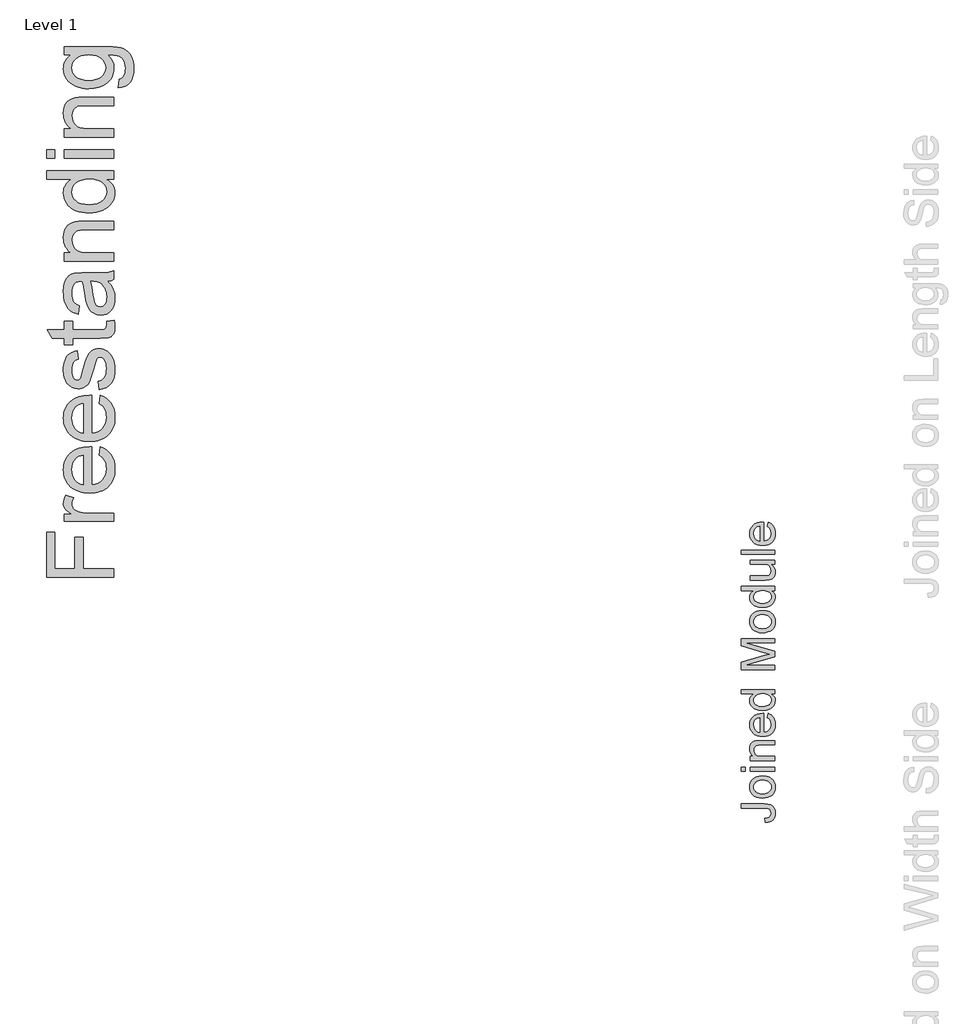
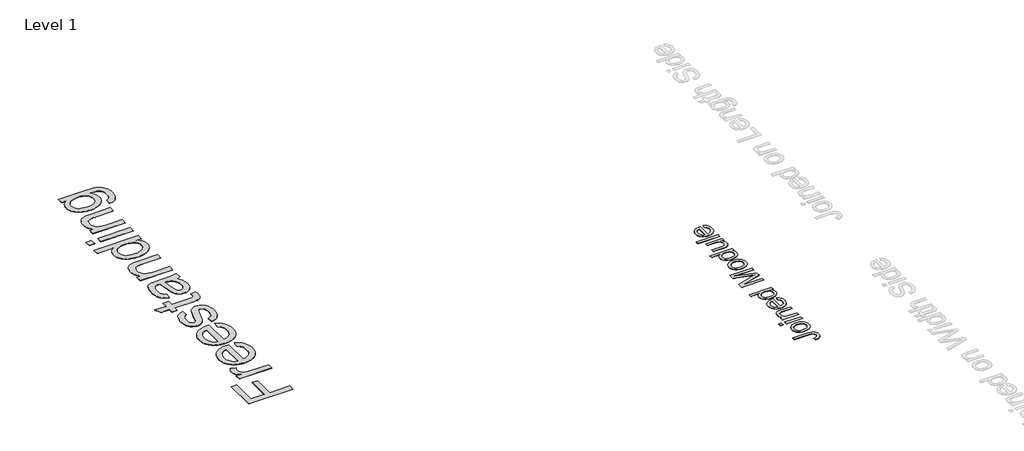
# One storey, part 41 of 69: 2 proxies.
"""IFC4 building model written with IfcOpenShell, lengths in millimetres."""

from ifc_helpers import new_model, si_unit, origin, origin_with_axes, place, context, project, spatial, polyline, outline, extrude, element, save

model = new_model("IFC4")

# Units and contexts
model_context = context("Model", 3, world=origin())
ifc_project = project(units=[si_unit("LENGTHUNIT", "METRE", prefix="MILLI")], contexts=[model_context])

# Site, building, storey
site = spatial("IfcSite", under=ifc_project)
building = spatial("IfcBuilding", under=site)
storey = spatial("IfcBuildingStorey", under=building, Name="Level 1", Elevation=0.0)

# Proxies
placement = place(None, origin())
element("IfcBuildingElementProxy", 1, Name="1000mm Arial", ObjectType="1000mm Arial", at=placement, inside=storey, context=model_context, shape_type="SweptSolid", body=[
    extrude(outline(polyline([(-28268.5943946, 19516.4958879), (-29273.1574961, 19516.4958879), (-29273.1574961, 20191.4367217), (-29147.5871085, 20191.4367217), (-29147.5871085, 19642.0662755), (-28849.3574377, 19642.0662755), (-28849.3574377, 20112.9552294), (-28723.78705, 20112.9552294), (-28723.78705, 19642.0662755), (-28268.5943946, 19642.0662755), (-28268.5943946, 19516.4958879)])), origin_with_axes(), (0.0, 0.0, 1.0), 5.0),
    extrude(outline(polyline([(-28268.5943946, 20348.3997063), (-29006.3204223, 20348.3997063), (-29006.3204223, 20458.2737955), (-28897.1820971, 20458.2737955), (-28960.4578002, 20498.8634423), (-28982.346779, 20517.9626492), (-28997.7365091, 20536.2647785), (-29015.9466678, 20573.788742), (-29022.0167208, 20614.7462708), (-29019.594831, 20645.8936131), (-29012.3291616, 20677.28621), (-29000.2197126, 20708.9240616), (-28983.2664839, 20740.8071678), (-28870.6945934, 20698.8686204), (-28890.0083982, 20654.7227809), (-28894.8368494, 20632.6498612), (-28896.4463331, 20610.5769415), (-28894.898163, 20591.3321146), (-28890.2536528, 20573.0836348), (-28882.5128025, 20555.8315021), (-28871.6756121, 20539.5757164), (-28858.0946351, 20524.9294145), (-28842.1224251, 20512.505733), (-28803.0043063, 20494.326231), (-28732.8614726, 20479.0591282), (-28656.3420176, 20473.970094), (-28268.5943946, 20473.970094), (-28268.5943946, 20348.3997063)])), origin_with_axes(), (0.0, 0.0, 1.0), 5.0),
    extrude(outline(polyline([(-28488.3425731, 21335.7949813), (-28472.6462746, 21458.9128224), (-28423.3347589, 21440.0358775), (-28379.8786982, 21414.5523851), (-28342.2780926, 21382.4623453), (-28310.5329421, 21343.7657579), (-28285.317697, 21298.8611619), (-28267.3068077, 21248.147096), (-28256.5002741, 21191.6235603), (-28252.8980962, 21129.2905547), (-28254.4520144, 21089.2718914), (-28259.1137691, 21051.3762138), (-28266.8833602, 21015.6035219), (-28277.7607877, 20981.9538156), (-28291.7460517, 20950.4270951), (-28308.8391521, 20921.0233602), (-28329.0400889, 20893.742611), (-28352.3488622, 20868.5848475), (-28378.4627357, 20845.9945937), (-28407.0789732, 20826.4163738), (-28438.1975747, 20809.8501877), (-28471.8185401, 20796.2960354), (-28507.9418696, 20785.753917), (-28546.567563, 20778.2238324), (-28587.6956205, 20773.7057816), (-28631.3260419, 20772.1997647), (-28676.4414037, 20773.7211101), (-28718.9585988, 20778.2851461), (-28758.8776274, 20785.8918727), (-28796.1984894, 20796.5412901), (-28830.9211848, 20810.2333981), (-28863.0457136, 20826.9681968), (-28892.5720758, 20846.7456861), (-28919.5002714, 20869.5658661), (-28943.5275643, 20894.811768), (-28964.351218, 20921.8664231), (-28981.9712328, 20950.7298313), (-28996.3876084, 20981.4019927), (-29007.6003451, 21013.8829071), (-29015.6094427, 21048.1725748), (-29020.4149012, 21084.2709956), (-29022.0167208, 21122.1781695), (-29020.4187334, 21158.8456577), (-29015.6247711, 21193.8001954), (-29007.634834, 21227.0417826), (-28996.4489221, 21258.5704192), (-28982.0670354, 21288.3861053), (-28964.4891738, 21316.4888408), (-28943.7153374, 21342.8786258), (-28919.7455261, 21367.5554603), (-28892.8786441, 21389.887047), (-28863.4135956, 21409.2410888), (-28831.3503805, 21425.6175858), (-28796.6889987, 21439.0165378), (-28759.4294504, 21449.437945), (-28719.5717355, 21456.8818072), (-28632.0618059, 21462.836897), (-28598.2166623, 21462.101133), (-28598.2166623, 20897.7701524), (-28548.1080689, 20905.043486), (-28504.2228126, 20919.505847), (-28466.5608933, 20941.1572352), (-28435.1223111, 20969.9976508), (-28410.3362617, 21004.4329384), (-28392.6319407, 21042.8689427), (-28382.0093481, 21085.3056637), (-28378.4684839, 21131.7431013), (-28380.1086244, 21166.4772931), (-28385.0290461, 21198.5749971), (-28393.2297489, 21228.0362136), (-28404.7107329, 21254.8609424), (-28419.7785662, 21279.0491836), (-28438.7398174, 21300.6009371), (-28461.5944864, 21319.5162031), (-28488.3425731, 21335.7949813)]), holes=[polyline([(-28723.78705, 20897.7701524), (-28723.78705, 21337.2665093), (-28759.3183194, 21330.813246), (-28790.1284365, 21320.2826239), (-28816.2174013, 21305.674643), (-28837.5852139, 21286.9893033), (-28863.3369535, 21252.7456209), (-28881.7310533, 21213.7807863), (-28892.7675131, 21170.0947993), (-28896.4463331, 21121.6876601), (-28893.5109413, 21077.5341565), (-28884.7047661, 21037.0441444), (-28870.0278073, 21000.2176239), (-28849.480065, 20967.0545948), (-28824.0119011, 20939.2258547), (-28794.5736773, 20918.402201), (-28761.1653936, 20904.5836335), (-28723.78705, 20897.7701524)])]), origin_with_axes(), (0.0, 0.0, 1.0), 5.0),
    extrude(outline(polyline([(-28488.3425731, 22104.9136059), (-28472.6462746, 22228.031447), (-28423.3347589, 22209.1545021), (-28379.8786982, 22183.6710097), (-28342.2780926, 22151.5809699), (-28310.5329421, 22112.8843825), (-28285.317697, 22067.9797864), (-28267.3068077, 22017.2657206), (-28256.5002741, 21960.7421849), (-28252.8980962, 21898.4091793), (-28254.4520144, 21858.390516), (-28259.1137691, 21820.4948384), (-28266.8833602, 21784.7221465), (-28277.7607877, 21751.0724402), (-28291.7460517, 21719.5457197), (-28308.8391521, 21690.1419848), (-28329.0400889, 21662.8612356), (-28352.3488622, 21637.703472), (-28378.4627357, 21615.1132183), (-28407.0789732, 21595.5349984), (-28438.1975747, 21578.9688123), (-28471.8185401, 21565.41466), (-28507.9418696, 21554.8725416), (-28546.567563, 21547.342457), (-28587.6956205, 21542.8244062), (-28631.3260419, 21541.3183893), (-28676.4414037, 21542.8397346), (-28718.9585988, 21547.4037706), (-28758.8776274, 21555.0104973), (-28796.1984894, 21565.6599147), (-28830.9211848, 21579.3520227), (-28863.0457136, 21596.0868213), (-28892.5720758, 21615.8643107), (-28919.5002714, 21638.6844907), (-28943.5275643, 21663.9303926), (-28964.351218, 21690.9850477), (-28981.9712328, 21719.8484559), (-28996.3876084, 21750.5206172), (-29007.6003451, 21783.0015317), (-29015.6094427, 21817.2911994), (-29020.4149012, 21853.3896201), (-29022.0167208, 21891.2967941), (-29020.4187334, 21927.9642823), (-29015.6247711, 21962.91882), (-29007.634834, 21996.1604072), (-28996.4489221, 22027.6890438), (-28982.0670354, 22057.5047298), (-28964.4891738, 22085.6074654), (-28943.7153374, 22111.9972504), (-28919.7455261, 22136.6740848), (-28892.8786441, 22159.0056716), (-28863.4135956, 22178.3597134), (-28831.3503805, 22194.7362104), (-28796.6889987, 22208.1351624), (-28759.4294504, 22218.5565695), (-28719.5717355, 22226.0004318), (-28632.0618059, 22231.9555216), (-28598.2166623, 22231.2197576), (-28598.2166623, 21666.888777), (-28548.1080689, 21674.1621106), (-28504.2228126, 21688.6244715), (-28466.5608933, 21710.2758598), (-28435.1223111, 21739.1162754), (-28410.3362617, 21773.551563), (-28392.6319407, 21811.9875673), (-28382.0093481, 21854.4242882), (-28378.4684839, 21900.8617259), (-28380.1086244, 21935.5959176), (-28385.0290461, 21967.6936217), (-28393.2297489, 21997.1548382), (-28404.7107329, 22023.979567), (-28419.7785662, 22048.1678082), (-28438.7398174, 22069.7195617), (-28461.5944864, 22088.6348276), (-28488.3425731, 22104.9136059)]), holes=[polyline([(-28723.78705, 21666.888777), (-28723.78705, 22106.3851339), (-28759.3183194, 22099.9318706), (-28790.1284365, 22089.4012485), (-28816.2174013, 22074.7932676), (-28837.5852139, 22056.1079279), (-28863.3369535, 22021.8642455), (-28881.7310533, 21982.8994109), (-28892.7675131, 21939.2134239), (-28896.4463331, 21890.8062847), (-28893.5109413, 21846.6527811), (-28884.7047661, 21806.162769), (-28870.0278073, 21769.3362484), (-28849.480065, 21736.1732194), (-28824.0119011, 21708.3444793), (-28794.5736773, 21687.5208256), (-28761.1653936, 21673.7022581), (-28723.78705, 21666.888777)])]), origin_with_axes(), (0.0, 0.0, 1.0), 5.0),
    extrude(outline(polyline([(-28488.3425731, 22310.4370139), (-28504.0388716, 22436.0074016), (-28475.4053896, 22443.5949677), (-28450.3281003, 22455.8117157), (-28428.8070035, 22472.6576454), (-28410.8420994, 22494.1327568), (-28396.6786426, 22520.2983637), (-28386.5618878, 22551.2157797), (-28380.4918348, 22586.8850049), (-28378.4684839, 22627.3060391), (-28380.3232223, 22667.681088), (-28385.8874374, 22702.4765934), (-28395.1611294, 22731.6925552), (-28408.1442982, 22755.3289734), (-28423.6259988, 22773.569789), (-28440.3952864, 22786.598943), (-28458.452161, 22794.4164354), (-28477.7966226, 22797.0222662), (-28494.7498512, 22794.401107), (-28509.8023562, 22786.5376293), (-28522.9541375, 22773.4318332), (-28534.2051952, 22755.0837187), (-28550.1467483, 22708.056137), (-28570.012376, 22625.8345111), (-28603.1524124, 22511.2392696), (-28631.4486692, 22436.7431656), (-28645.6351187, 22411.1677027), (-28662.3201, 22388.8878494), (-28681.5036132, 22369.9036056), (-28703.1856583, 22354.2149713), (-28726.7147776, 22341.9292455), (-28751.4395133, 22333.1537271), (-28777.3598656, 22327.888416), (-28804.4758343, 22326.1333124), (-28853.1282281, 22331.7741696), (-28898.0404884, 22348.6967414), (-28937.4345187, 22375.368186), (-28969.5322228, 22410.2556619), (-28989.7350757, 22444.92854), (-29006.6883043, 22490.0860549), (-29018.1846167, 22542.2946414), (-29022.0167208, 22598.1207341), (-29020.4762149, 22640.3198647), (-29015.8546973, 22679.8518507), (-29008.1521681, 22716.7166923), (-28997.3686271, 22750.9143895), (-28983.9562627, 22781.6325361), (-28968.3672631, 22808.058726), (-28950.6016285, 22830.1929594), (-28930.6593586, 22848.0352362), (-28907.8430107, 22862.5052613), (-28881.4551418, 22874.5227398), (-28851.4957518, 22884.0876717), (-28817.9648408, 22891.2000569), (-28802.2685423, 22765.6296693), (-28823.2454802, 22759.6439226), (-28841.7852, 22749.7800866), (-28857.8877015, 22736.0381613), (-28871.5529847, 22718.4181465), (-28882.4438246, 22696.8434004), (-28890.222996, 22671.2372807), (-28894.8904988, 22641.5997874), (-28896.4463331, 22607.9309207), (-28894.9594767, 22568.8741155), (-28890.4989075, 22535.8260496), (-28883.0646255, 22508.786723), (-28872.6566307, 22487.7561356), (-28860.2712702, 22471.983195), (-28846.9048911, 22460.7168089), (-28832.5574933, 22453.9569773), (-28817.2290768, 22451.7037), (-28797.915272, 22455.4438337), (-28780.6861319, 22466.6642345), (-28765.2964018, 22485.8554119), (-28752.972355, 22513.5078752), (-28726.2395966, 22621.6651818), (-28693.4367854, 22732.6122602), (-28667.1332228, 22805.9740614), (-28654.3033382, 22831.7871147), (-28638.8676228, 22854.6571121), (-28620.8260766, 22874.5840535), (-28600.1786996, 22891.5679389), (-28576.894835, 22905.1412517), (-28550.9438259, 22914.8364751), (-28522.3256724, 22920.6536092), (-28491.0403744, 22922.5926539), (-28459.6171206, 22920.316384), (-28429.1135719, 22913.4875745), (-28399.5297281, 22902.1062253), (-28370.8655893, 22886.1723363), (-28344.2631225, 22865.9464908), (-28320.8642948, 22841.6892718), (-28300.6691061, 22813.4006792), (-28283.6775564, 22781.0807131), (-28270.2115426, 22745.6107574), (-28260.5929613, 22707.872196), (-28254.8218125, 22667.865029), (-28252.8980962, 22625.5892564), (-28256.607573, 22558.0062682), (-28267.7360033, 22498.9765364), (-28286.2833872, 22448.500061), (-28312.2497247, 22406.576842), (-28345.5123885, 22372.3331596), (-28385.9487511, 22344.8952941), (-28433.5588127, 22324.2632455), (-28488.3425731, 22310.4370139)])), origin_with_axes(), (0.0, 0.0, 1.0), 5.0),
    extrude(outline(polyline([(-28373.3181359, 23330.6964139), (-28264.9155747, 23346.3927123), (-28255.9024658, 23296.6673293), (-28252.8980962, 23252.4601762), (-28258.1097578, 23192.1888427), (-28264.6243348, 23167.8013321), (-28273.7447426, 23147.2459256), (-28297.8410133, 23115.4854467), (-28312.3263668, 23103.7438797), (-28328.4365325, 23094.7614276), (-28350.0342713, 23088.1088949), (-28380.9823442, 23083.3570858), (-28470.929492, 23079.5556385), (-28880.7500346, 23079.5556385), (-28880.7500346, 22985.3778477), (-29006.3204223, 22985.3778477), (-29006.3204223, 23079.5556385), (-29185.6015813, 23079.5556385), (-29259.423235, 23205.1260262), (-29006.3204223, 23205.1260262), (-29006.3204223, 23330.6964139), (-28880.7500346, 23330.6964139), (-28880.7500346, 23205.1260262), (-28474.6083119, 23205.1260262), (-28433.2829012, 23206.7814951), (-28409.8610808, 23211.7479021), (-28396.8932405, 23220.4237858), (-28386.9297698, 23233.2076851), (-28380.5838053, 23251.3258734), (-28378.4684839, 23276.0046239), (-28373.3181359, 23330.6964139)])), origin_with_axes(), (0.0, 0.0, 1.0), 5.0),
    extrude(outline(polyline([(-28362.7721854, 23927.1557554), (-28334.8284822, 23897.3803064), (-28311.3300198, 23867.1603333), (-28292.2767981, 23836.4958362), (-28277.6688172, 23805.386815), (-28266.8316268, 23773.4807161), (-28259.0907764, 23740.424986), (-28254.4462662, 23706.2196246), (-28252.8980962, 23670.8646321), (-28256.6229014, 23614.954233), (-28267.797317, 23565.9262929), (-28286.421343, 23523.7808119), (-28312.4949794, 23488.5177898), (-28344.3627572, 23460.6737213), (-28380.3692075, 23440.7851009), (-28420.5143302, 23428.8519287), (-28464.7981254, 23424.8742046), (-28516.8534277, 23430.8829439), (-28541.0876542, 23438.3938679), (-28564.1262641, 23448.9091616), (-28604.5932836, 23476.7149091), (-28636.2311352, 23512.0622375), (-28660.1434648, 23553.6022461), (-28677.4339186, 23599.9860343), (-28687.0601642, 23645.1742061), (-28696.3185277, 23708.6338502), (-28716.1841554, 23837.0246665), (-28727.4045563, 23886.5967654), (-28739.4833485, 23926.4199914), (-28767.4423801, 23927.1557554), (-28797.8846152, 23924.9944486), (-28823.4830707, 23918.5105285), (-28844.2377466, 23907.7039949), (-28860.1486429, 23892.5748478), (-28876.0288823, 23866.4245693), (-28887.3719105, 23834.5721199), (-28894.1777274, 23797.0174996), (-28896.4463331, 23753.7607083), (-28894.9364841, 23713.5389435), (-28890.406937, 23678.958036), (-28882.8576919, 23650.0179857), (-28872.2887487, 23626.7187926), (-28857.872373, 23607.5736005), (-28838.7808303, 23591.0955528), (-28815.0141206, 23577.2846495), (-28786.5722439, 23566.1408908), (-28802.2685423, 23440.5705031), (-28838.4436052, 23450.1277707), (-28870.9398481, 23462.3675113), (-28899.757271, 23477.2897247), (-28924.895874, 23494.894411), (-28946.8614948, 23515.9403268), (-28966.1599712, 23541.1862288), (-28982.791303, 23570.6321168), (-28996.7554904, 23604.2779909), (-29007.8072787, 23641.4417367), (-29015.7014132, 23681.4412394), (-29020.4378939, 23724.2764992), (-29022.0167208, 23769.9475161), (-29016.4371772, 23854.8362865), (-29009.4627477, 23890.6817884), (-28999.6985464, 23922.1280348), (-28974.5292866, 23972.8650933), (-28959.8063425, 23992.4164885), (-28943.6578558, 24008.0897943), (-28905.4900988, 24031.450301), (-28858.4318602, 24046.5947765), (-28815.0217848, 24051.1933014), (-28748.557771, 24052.7261431), (-28592.3305504, 24052.7261431), (-28456.244869, 24054.3202984), (-28374.1765273, 24059.1027643), (-28320.2511581, 24068.5450688), (-28268.5943946, 24084.11874), (-28268.5943946, 23958.5483523), (-28312.2497247, 23938.4374699), (-28362.7721854, 23927.1557554)]), holes=[polyline([(-28613.9129608, 23927.1557554), (-28593.0050007, 23842.7881511), (-28575.4079786, 23724.5754034), (-28565.7817331, 23659.4296334), (-28555.0518416, 23616.5407241), (-28541.1336394, 23588.4284083), (-28521.942462, 23567.6124187), (-28498.9498373, 23554.7365489), (-28473.6272933, 23550.4445923), (-28454.1142191, 23552.7821758), (-28436.2872708, 23559.7949263), (-28420.1464482, 23571.4828439), (-28405.6917515, 23587.8459285), (-28393.7815719, 23608.7308959), (-28385.2743008, 23633.984462), (-28380.1699381, 23663.6066269), (-28378.4684839, 23697.5973904), (-28380.3462149, 23732.3009253), (-28385.9794079, 23765.0424228), (-28395.368063, 23795.8218831), (-28408.5121801, 23824.639306), (-28424.3234417, 23850.6363004), (-28441.7135302, 23872.9544747), (-28460.6824456, 23891.5938292), (-28481.2301879, 23906.5543636), (-28499.6242876, 23915.2455758), (-28521.942462, 23921.4535844), (-28578.3510346, 23926.4199914), (-28613.9129608, 23927.1557554)])]), origin_with_axes(), (0.0, 0.0, 1.0), 5.0),
    extrude(outline(polyline([(-28268.5943946, 24225.3854261), (-29006.3204223, 24225.3854261), (-29006.3204223, 24350.9558138), (-28903.3134637, 24350.9558138), (-28931.1345395, 24371.6721687), (-28955.2461386, 24394.5804871), (-28975.648261, 24419.680769), (-28992.3409065, 24446.9730145), (-29005.3240752, 24476.4572236), (-29014.5977672, 24508.1333962), (-29020.1619824, 24542.0015324), (-29022.0167208, 24578.0616322), (-29016.0386383, 24639.9577779), (-29008.5660353, 24668.9514776), (-28998.1043911, 24696.6422619), (-28985.2131928, 24721.9801344), (-28970.4519278, 24743.9150983), (-28953.8205959, 24762.4471538), (-28935.3191972, 24777.5763009), (-28892.79817, 24800.4156414), (-28842.9808164, 24815.2228917), (-28795.3400981, 24820.1892987), (-28721.579758, 24821.8447676), (-28268.5943946, 24821.8447676), (-28268.5943946, 24696.2743799), (-28704.6571863, 24696.2743799), (-28769.5883584, 24692.6568737), (-28815.7575488, 24681.8043548), (-28833.2242794, 24673.1821205), (-28848.8362715, 24661.7854429), (-28862.5935253, 24647.6143219), (-28874.4960407, 24630.6687575), (-28890.95876, 24590.7842178), (-28896.4463331, 24544.4617433), (-28893.3653214, 24506.3323073), (-28884.1222862, 24470.9160011), (-28868.7172277, 24438.2128245), (-28847.1501457, 24408.2227777), (-28816.9684937, 24383.168481), (-28775.719725, 24365.2725548), (-28723.4038396, 24354.5349991), (-28660.0208375, 24350.9558138), (-28268.5943946, 24350.9558138), (-28268.5943946, 24225.3854261)])), origin_with_axes(), (0.0, 0.0, 1.0), 5.0),
    extrude(outline(polyline([(-28268.5943946, 25449.6967061), (-28387.0523971, 25449.6967061), (-28355.6099828, 25431.9042467), (-28328.3598904, 25412.1267573), (-28305.30212, 25390.364238), (-28286.4366714, 25366.6166888), (-28271.7635448, 25340.8841097), (-28261.28274, 25313.1665006), (-28254.9942571, 25283.4638616), (-28252.8980962, 25251.7761927), (-28255.9331226, 25210.3281545), (-28265.038202, 25170.5968991), (-28280.2133343, 25132.5824262), (-28301.4585195, 25096.284736), (-28328.1376284, 25062.8381313), (-28359.6145316, 25033.3769149), (-28395.8892292, 25007.9010867), (-28436.9617211, 24986.4106468), (-28482.0502581, 24969.3501193), (-28530.373091, 24957.1640282), (-28581.9302198, 24949.8523735), (-28636.7216445, 24947.4151553), (-28690.5090579, 24949.6607683), (-28741.7519541, 24956.3976074), (-28790.4503332, 24967.6256724), (-28836.6041952, 24983.3449635), (-28878.8646394, 25003.5478164), (-28915.8827652, 25028.2265669), (-28947.6585725, 25057.381215), (-28974.1920614, 25091.0117608), (-28995.1153499, 25127.9302518), (-29010.0605559, 25166.9487359), (-29019.0276796, 25208.0672131), (-29022.0167208, 25251.2856833), (-29019.8784067, 25282.8928781), (-29013.4634644, 25312.7219765), (-29002.7718939, 25340.7729787), (-28987.8036952, 25367.0458845), (-28969.4172597, 25391.2494541), (-28948.4709786, 25413.0924475), (-28924.9648519, 25432.5748649), (-28898.8988797, 25449.6967061), (-29273.1574961, 25449.6967061), (-29273.1574961, 25575.2670938), (-28268.5943946, 25575.2670938), (-28268.5943946, 25449.6967061)]), holes=[polyline([(-28637.2121538, 25072.985543), (-28576.3200194, 25076.5264072), (-28523.6285878, 25087.1489998), (-28479.137859, 25104.8533208), (-28442.847833, 25129.6393703), (-28414.6818678, 25159.2385425), (-28394.5633212, 25191.3822318), (-28382.4921932, 25226.0704383), (-28378.4684839, 25263.3031618), (-28382.3082522, 25300.7121622), (-28393.8275572, 25335.1934351), (-28413.0263988, 25366.7469804), (-28439.9047771, 25395.3727981), (-28474.6772898, 25419.1395078), (-28517.5585349, 25436.1157291), (-28568.5485123, 25446.3014618), (-28627.6472219, 25449.6967061), (-28692.4404383, 25446.2401482), (-28748.005948, 25435.8704744), (-28794.343751, 25418.5876849), (-28831.4538473, 25394.3917795), (-28859.8880598, 25365.1374966), (-28880.1982116, 25332.6795748), (-28892.3843027, 25297.0180139), (-28896.4463331, 25258.1528139), (-28892.5452511, 25220.1843263), (-28880.8420051, 25185.4961199), (-28861.3365952, 25154.0881945), (-28834.0290212, 25125.9605503), (-28798.3214751, 25102.7839846), (-28753.6161485, 25086.2292948), (-28699.9130414, 25076.296481), (-28637.2121538, 25072.985543)])]), origin_with_axes(), (0.0, 0.0, 1.0), 5.0),
    extrude(outline(polyline([(-28268.5943946, 25763.6226753), (-29006.3204223, 25763.6226753), (-29006.3204223, 25889.193063), (-28268.5943946, 25889.193063), (-28268.5943946, 25763.6226753)])), origin_with_axes(), (0.0, 0.0, 1.0), 5.0),
    extrude(outline(polyline([(-29147.5871085, 25763.6226753), (-29273.1574961, 25763.6226753), (-29273.1574961, 25889.193063), (-29147.5871085, 25889.193063), (-29147.5871085, 25763.6226753)])), origin_with_axes(), (0.0, 0.0, 1.0), 5.0),
    extrude(outline(polyline([(-28268.5943946, 26077.5486445), (-29006.3204223, 26077.5486445), (-29006.3204223, 26203.1190322), (-28903.3134637, 26203.1190322), (-28931.1345395, 26223.835387), (-28955.2461386, 26246.7437055), (-28975.648261, 26271.8439874), (-28992.3409065, 26299.1362329), (-29005.3240752, 26328.620442), (-29014.5977672, 26360.2966146), (-29020.1619824, 26394.1647508), (-29022.0167208, 26430.2248505), (-29016.0386383, 26492.1209962), (-29008.5660353, 26521.114696), (-28998.1043911, 26548.8054803), (-28985.2131928, 26574.1433527), (-28970.4519278, 26596.0783167), (-28953.8205959, 26614.6103722), (-28935.3191972, 26629.7395193), (-28892.79817, 26652.5788598), (-28842.9808164, 26667.3861101), (-28795.3400981, 26672.352517), (-28721.579758, 26674.007986), (-28268.5943946, 26674.007986), (-28268.5943946, 26548.4375983), (-28704.6571863, 26548.4375983), (-28769.5883584, 26544.820092), (-28815.7575488, 26533.9675732), (-28833.2242794, 26525.3453389), (-28848.8362715, 26513.9486613), (-28862.5935253, 26499.7775403), (-28874.4960407, 26482.8319759), (-28890.95876, 26442.9474362), (-28896.4463331, 26396.6249617), (-28893.3653214, 26358.4955257), (-28884.1222862, 26323.0792195), (-28868.7172277, 26290.3760429), (-28847.1501457, 26260.3859961), (-28816.9684937, 26235.3316994), (-28775.719725, 26217.4357732), (-28723.4038396, 26206.6982174), (-28660.0208375, 26203.1190322), (-28268.5943946, 26203.1190322), (-28268.5943946, 26077.5486445)])), origin_with_axes(), (0.0, 0.0, 1.0), 5.0),
    extrude(outline(polyline([(-28205.8092008, 26815.2746722), (-28190.1129023, 26940.8450599), (-28168.9596876, 26946.148692), (-28150.8721562, 26954.7019483), (-28135.8503081, 26966.504829), (-28123.8941432, 26981.557334), (-28111.6620669, 27005.9141878), (-28102.9248695, 27034.3484003), (-28097.6825511, 27066.8599716), (-28095.9351116, 27103.4489017), (-28097.9124773, 27142.658991), (-28103.8445745, 27177.1479281), (-28113.7314031, 27206.9157129), (-28127.5729632, 27231.9623454), (-28144.9860443, 27252.8089918), (-28165.587436, 27269.9768182), (-28189.3771384, 27283.4658247), (-28216.3551513, 27293.2760112), (-28270.372491, 27300.0818281), (-28362.7721854, 27301.8599245), (-28321.569402, 27260.0746612), (-28292.1388423, 27213.4456183), (-28281.8381465, 27188.3146795), (-28274.4805066, 27161.9727958), (-28268.5943946, 27105.6561937), (-28270.3073452, 27070.2034825), (-28275.4461968, 27036.8086111), (-28284.0109495, 27005.4715797), (-28296.0016033, 26976.1923882), (-28311.4181581, 26948.9710366), (-28330.2606141, 26923.807525), (-28352.5289711, 26900.7018532), (-28378.2232292, 26879.6540213), (-28435.7661046, 26844.6209255), (-28498.7658963, 26819.5972856), (-28567.2226042, 26804.5831017), (-28641.1362284, 26799.5783737), (-28692.8466414, 26801.8239867), (-28742.5183749, 26808.5608258), (-28790.1514291, 26819.7888908), (-28835.7458039, 26835.5081819), (-28877.783986, 26855.4811086), (-28914.7484623, 26879.4700803), (-28946.6392328, 26907.4750972), (-28973.4562974, 26939.4961592), (-28994.7014826, 26975.0197644), (-29009.8766149, 27013.5324107), (-29018.9816943, 27055.0340983), (-29022.0167208, 27099.5248271), (-29020.2999381, 27129.5646913), (-29015.1495902, 27158.2479906), (-29006.565677, 27185.574725), (-28994.5481985, 27211.5448946), (-28979.0971547, 27236.1584994), (-28960.2125456, 27259.4155393), (-28937.8943712, 27281.3160143), (-28912.1426315, 27301.8599245), (-29006.3204223, 27301.8599245), (-29006.3204223, 27427.4303121), (-28369.3940613, 27427.4303121), (-28289.586661, 27425.2843338), (-28222.3332338, 27418.8463989), (-28167.6337796, 27408.1165074), (-28125.4882985, 27393.0946593), (-28091.497535, 27373.4206367), (-28061.2622335, 27348.734222), (-28034.7823941, 27319.0354151), (-28012.0580167, 27284.324216), (-27993.8172011, 27244.9531783), (-27980.7880471, 27201.2748556), (-27972.9705547, 27153.2892479), (-27970.3647239, 27100.9963551), (-27974.0358796, 27039.4757556), (-27985.0493469, 26984.1631648), (-28003.4051256, 26935.0585826), (-28029.1032158, 26892.1620092), (-28062.1742743, 26857.5121237), (-28102.648958, 26833.1476058), (-28150.5272668, 26819.0684552), (-28205.8092008, 26815.2746722)]), holes=[polyline([(-28649.7201416, 26925.1487614), (-28587.6323908, 26928.4980204), (-28534.5424203, 26938.5457974), (-28490.4502304, 26955.2920924), (-28455.3558209, 26978.7369054), (-28428.5847415, 27007.2400958), (-28409.462542, 27039.1615231), (-28397.9892222, 27074.5011872), (-28394.1647823, 27113.2590883), (-28397.9662296, 27151.6337789), (-28409.3705715, 27186.8048305), (-28428.3778079, 27218.772243), (-28454.9879389, 27247.5360165), (-28489.737459, 27271.3027262), (-28533.1628628, 27288.2789475), (-28585.2641504, 27298.4646802), (-28646.0413217, 27301.8599245), (-28704.2816401, 27298.3650455), (-28754.9037354, 27287.8804086), (-28797.9076078, 27270.4060139), (-28833.2932572, 27245.9418612), (-28860.9227279, 27216.5572868), (-28880.6580641, 27184.321627), (-28892.4992658, 27149.2348817), (-28896.4463331, 27111.297051), (-28892.5605795, 27073.9953495), (-28880.9033188, 27039.5907187), (-28861.4745509, 27008.0831587), (-28834.2742759, 26979.4726693), (-28799.4251211, 26955.7059596), (-28757.0497137, 26938.7297384), (-28707.1480539, 26928.5440056), (-28649.7201416, 26925.1487614)])]), origin_with_axes(), (0.0, 0.0, 1.0), 5.0),
])
element("IfcBuildingElementProxy", 2, Name="500mm Arial", ObjectType="500mm Arial", at=placement, inside=storey, context=model_context, shape_type="SweptSolid", body=[
    extrude(outline(polyline([(-18558.6715198, 15864.6470603), (-18566.7649237, 15927.4322542), (-18521.1168995, 15933.9621596), (-18504.7078297, 15940.3771019), (-18492.575388, 15948.8920372), (-18477.5841967, 15971.7007209), (-18472.587133, 16001.8670445), (-18475.42289, 16025.0589387), (-18483.9301611, 16044.8479243), (-18497.3271971, 16060.1150271), (-18514.8322487, 16069.7412726), (-18540.1701212, 16074.8456353), (-18577.0656196, 16076.5470896), (-18919.9316391, 16076.5470896), (-18919.9316391, 16139.3322834), (-18578.1692656, 16139.3322834), (-18522.2665307, 16135.5461645), (-18480.6192232, 16124.1878079), (-18450.1923165, 16104.5980917), (-18427.9507842, 16076.1178939), (-18414.3391504, 16040.3566983), (-18409.8019391, 15998.9239886), (-18412.1433547, 15967.9835799), (-18419.1676016, 15940.8906038), (-18430.8746797, 15917.6450603), (-18447.264589, 15898.2469492), (-18468.2760158, 15883.0411601), (-18493.8476466, 15872.3725822), (-18523.9794813, 15866.2412156), (-18558.6715198, 15864.6470603)])), origin_with_axes(), (0.0, 0.0, 1.0), 5.0),
    extrude(outline(polyline([(-18602.0815953, 16225.6619249), (-18649.8526052, 16229.0571692), (-18691.0170676, 16239.2429019), (-18725.5749825, 16256.2191232), (-18753.5263499, 16279.9858329), (-18771.3916193, 16303.913491), (-18784.152526, 16330.3243526), (-18791.8090701, 16359.2184176), (-18794.3612514, 16390.5956861), (-18791.253415, 16425.2340752), (-18781.9299057, 16456.5538622), (-18766.3907235, 16484.5550469), (-18744.6358684, 16509.2376296), (-18717.4011044, 16529.3830009), (-18685.4221956, 16543.7725519), (-18648.6991418, 16552.4062824), (-18607.2319432, 16555.2841926), (-18543.8029559, 16550.1951583), (-18517.7676405, 16543.8338655), (-18495.518444, 16534.9280555), (-18476.3004419, 16523.5888595), (-18459.3587096, 16509.9274083), (-18444.6932471, 16493.943702), (-18432.3040545, 16475.6377407), (-18415.427468, 16434.9101381), (-18409.8019391, 16390.5956861), (-18412.8982792, 16355.4514593), (-18422.1872996, 16323.8404324), (-18437.6690003, 16295.7626055), (-18459.3433811, 16271.2179787), (-18486.8425603, 16251.2872052), (-18519.7986557, 16237.0509384), (-18558.2116673, 16228.5091783), (-18602.0815953, 16225.6619249)]), holes=[polyline([(-18602.2042226, 16288.4471188), (-18571.7504912, 16290.2635361), (-18545.3817828, 16295.7127882), (-18523.0980973, 16304.7948749), (-18504.8994349, 16317.5097964), (-18490.7628028, 16332.9761686), (-18480.6652084, 16350.3126076), (-18474.6066518, 16369.5191135), (-18472.587133, 16390.5956861), (-18474.6181481, 16411.5649598), (-18480.7111937, 16430.6948236), (-18490.8662696, 16447.9852774), (-18505.0833759, 16463.4363212), (-18523.4621472, 16476.1512426), (-18546.1022183, 16485.2333294), (-18573.0035892, 16490.6825814), (-18604.1662599, 16492.4989988), (-18633.6543011, 16490.6710851), (-18659.3332308, 16485.1873441), (-18681.203049, 16476.0477758), (-18699.2637557, 16463.2523802), (-18713.4003877, 16447.7438548), (-18723.4979821, 16430.4648973), (-18729.5565387, 16411.4155078), (-18731.5760576, 16390.5956861), (-18729.5642029, 16369.5191135), (-18723.5286389, 16350.3126076), (-18713.4693656, 16332.9761686), (-18699.386383, 16317.5097964), (-18681.24137, 16304.7948749), (-18658.9960056, 16295.7127882), (-18632.6502898, 16290.2635361), (-18602.2042226, 16288.4471188)])]), origin_with_axes(), (0.0, 0.0, 1.0), 5.0),
    extrude(outline(polyline([(-18857.1464453, 16625.9175357), (-18919.9316391, 16625.9175357), (-18919.9316391, 16688.7027295), (-18857.1464453, 16688.7027295), (-18857.1464453, 16625.9175357)])), origin_with_axes(), (0.0, 0.0, 1.0), 5.0),
    extrude(outline(polyline([(-18417.6500883, 16625.9175357), (-18786.5131022, 16625.9175357), (-18786.5131022, 16688.7027295), (-18417.6500883, 16688.7027295), (-18417.6500883, 16625.9175357)])), origin_with_axes(), (0.0, 0.0, 1.0), 5.0),
    extrude(outline(polyline([(-18417.6500883, 16782.8805203), (-18786.5131022, 16782.8805203), (-18786.5131022, 16845.6657141), (-18735.0096229, 16845.6657141), (-18760.9759603, 16867.4780508), (-18779.5233443, 16893.6743145), (-18790.6517746, 16924.2545054), (-18794.3612514, 16959.2186233), (-18791.3722102, 16990.1666962), (-18782.4050866, 17018.5089382), (-18768.5788549, 17042.1453564), (-18751.0124896, 17058.9759577), (-18729.751976, 17070.3956279), (-18704.8432993, 17077.7992531), (-18644.14277, 17081.1101911), (-18417.6500883, 17081.1101911), (-18417.6500883, 17018.3249972), (-18635.6814842, 17018.3249972), (-18668.1470702, 17016.5162441), (-18691.2316654, 17011.0899846), (-18707.7710268, 17001.0805287), (-18720.6009114, 16985.522186), (-18728.832271, 16965.5799162), (-18731.5760576, 16942.4186789), (-18730.0355517, 16923.3539609), (-18725.4140341, 16905.6458078), (-18717.7115049, 16889.2942195), (-18706.9279639, 16874.2991961), (-18691.8371379, 16861.7720477), (-18671.2127535, 16852.8240846), (-18645.0548108, 16847.4553068), (-18613.3633098, 16845.6657141), (-18417.6500883, 16845.6657141), (-18417.6500883, 16782.8805203)])), origin_with_axes(), (0.0, 0.0, 1.0), 5.0),
    extrude(outline(polyline([(-18527.5241776, 17425.6929932), (-18519.6760283, 17487.2519137), (-18495.0202705, 17477.8134413), (-18473.2922401, 17465.0716951), (-18454.4919373, 17449.0266752), (-18438.6193621, 17429.6783815), (-18426.0117395, 17407.2260835), (-18417.0062949, 17381.8690505), (-18411.6030281, 17353.6072827), (-18409.8019391, 17322.4407799), (-18412.9097756, 17283.4836094), (-18422.2332849, 17248.7724104), (-18437.7724671, 17218.3071826), (-18459.5273221, 17192.0879263), (-18486.8923776, 17171.0036894), (-18519.2621611, 17155.9435202), (-18556.6366725, 17146.9074187), (-18599.015912, 17143.8953849), (-18642.8321904, 17146.9380756), (-18681.4521357, 17156.0661476), (-18714.8757478, 17171.2796009), (-18743.1030267, 17192.5784356), (-18765.5285, 17218.7287141), (-18781.5466952, 17248.4964989), (-18791.1576124, 17281.8817899), (-18794.3612514, 17318.8845873), (-18791.1652766, 17354.6956002), (-18781.5773521, 17387.0807121), (-18765.5974779, 17416.0399229), (-18743.2256541, 17441.5732327), (-18715.0596888, 17462.416047), (-18681.6973904, 17477.3037714), (-18643.1387588, 17486.2364061), (-18599.383794, 17489.213951), (-18582.4612222, 17488.846069), (-18582.4612222, 17206.6805787), (-18557.4069255, 17210.3172455), (-18535.4642973, 17217.548426), (-18516.6333377, 17228.3741201), (-18500.9140466, 17242.7943279), (-18488.5210219, 17260.0119717), (-18479.6688614, 17279.2299739), (-18474.3575651, 17300.4483344), (-18472.587133, 17323.6670532), (-18475.8674141, 17357.0830011), (-18485.7082575, 17385.2259737), (-18502.7227997, 17408.0959711), (-18527.5241776, 17425.6929932)]), holes=[polyline([(-18645.246416, 17206.6805787), (-18645.246416, 17426.4287572), (-18678.4171093, 17417.9368145), (-18702.145498, 17401.2901542), (-18715.0213678, 17384.168313), (-18724.2184177, 17364.6858957), (-18729.7366476, 17342.8429022), (-18731.5760576, 17318.6393326), (-18725.7052741, 17276.3175747), (-18718.3667947, 17257.9043145), (-18708.0929235, 17241.3228), (-18695.3588416, 17227.4084299), (-18680.6397297, 17216.996603), (-18663.9355878, 17210.0873193), (-18645.246416, 17206.6805787)])]), origin_with_axes(), (0.0, 0.0, 1.0), 5.0),
    extrude(outline(polyline([(-18417.6500883, 17779.5954726), (-18476.8790896, 17779.5954726), (-18447.5328362, 17760.8104982), (-18426.5712267, 17738.0554639), (-18413.994261, 17711.3303698), (-18409.8019391, 17680.6352159), (-18415.871992, 17640.0455691), (-18434.0821508, 17602.8894875), (-18463.1601568, 17571.435577), (-18501.8337516, 17547.9524429), (-18548.5394365, 17533.3291336), (-18601.7137133, 17528.4546972), (-18654.2288681, 17532.9459232), (-18701.6549886, 17546.4196013), (-18722.7852107, 17556.5210277), (-18741.2942736, 17568.860403), (-18757.1821773, 17583.4377271), (-18770.4489217, 17600.2529999), (-18788.383169, 17638.2214875), (-18794.3612514, 17680.3899612), (-18790.0846232, 17711.1081078), (-18777.2547386, 17738.2700618), (-18757.5883803, 17761.2933433), (-18732.8023309, 17779.5954726), (-18919.9316391, 17779.5954726), (-18919.9316391, 17842.3806664), (-18417.6500883, 17842.3806664), (-18417.6500883, 17779.5954726)]), holes=[polyline([(-18601.9589679, 17591.239891), (-18571.5129007, 17593.0103231), (-18545.1671849, 17598.3216194), (-18522.9218205, 17607.1737799), (-18504.7768075, 17619.5668047), (-18490.6938249, 17634.3663908), (-18480.6345516, 17650.4382354), (-18474.5989876, 17667.7823387), (-18472.587133, 17686.3987005), (-18474.5070171, 17705.1032006), (-18480.2666696, 17722.3438371), (-18489.8660904, 17738.1206097), (-18503.3052796, 17752.4335186), (-18520.6915359, 17764.3168735), (-18542.1321585, 17772.8049841), (-18567.6271472, 17777.8978504), (-18597.176502, 17779.5954726), (-18629.5731102, 17777.8671936), (-18657.355865, 17772.6823567), (-18680.5247665, 17764.040962), (-18699.0798147, 17751.9430093), (-18713.2969209, 17737.3158678), (-18723.4519968, 17721.0869069), (-18729.5450424, 17703.2561265), (-18731.5760576, 17683.8235265), (-18729.6255166, 17664.8392827), (-18723.7738936, 17647.4951795), (-18714.0211886, 17631.7912168), (-18700.3674016, 17617.7273947), (-18682.5136286, 17606.1391118), (-18660.1609653, 17597.8617669), (-18633.3094117, 17592.89536), (-18601.9589679, 17591.239891)])]), origin_with_axes(), (0.0, 0.0, 1.0), 5.0),
    extrude(outline(polyline([(-18417.6500883, 18140.6103372), (-18919.9316391, 18140.6103372), (-18919.9316391, 18248.6450164), (-18565.9065324, 18351.4067204), (-18491.9622514, 18372.1307395), (-18572.037899, 18394.5715412), (-18919.9316391, 18495.6164625), (-18919.9316391, 18603.6511418), (-18417.6500883, 18603.6511418), (-18417.6500883, 18540.8659479), (-18857.1464453, 18540.8659479), (-18417.6500883, 18414.6824236), (-18417.6500883, 18329.5790554), (-18857.1464453, 18203.395531), (-18417.6500883, 18203.395531), (-18417.6500883, 18140.6103372)])), origin_with_axes(), (0.0, 0.0, 1.0), 5.0),
    extrude(outline(polyline([(-18602.0815953, 18689.9807833), (-18649.8526052, 18693.3760275), (-18691.0170676, 18703.5617603), (-18725.5749825, 18720.5379815), (-18753.5263499, 18744.3046912), (-18771.3916193, 18768.2323494), (-18784.152526, 18794.6432109), (-18791.8090701, 18823.537276), (-18794.3612514, 18854.9145445), (-18791.253415, 18889.5529336), (-18781.9299057, 18920.8727205), (-18766.3907235, 18948.8739053), (-18744.6358684, 18973.5564879), (-18717.4011044, 18993.7018593), (-18685.4221956, 19008.0914102), (-18648.6991418, 19016.7251408), (-18607.2319432, 19019.603051), (-18543.8029559, 19014.5140167), (-18517.7676405, 19008.1527239), (-18495.518444, 18999.2469139), (-18476.3004419, 18987.9077178), (-18459.3587096, 18974.2462667), (-18444.6932471, 18958.2625604), (-18432.3040545, 18939.956599), (-18415.427468, 18899.2289965), (-18409.8019391, 18854.9145445), (-18412.8982792, 18819.7703176), (-18422.1872996, 18788.1592908), (-18437.6690003, 18760.0814639), (-18459.3433811, 18735.536837), (-18486.8425603, 18715.6060635), (-18519.7986557, 18701.3697967), (-18558.2116673, 18692.8280367), (-18602.0815953, 18689.9807833)]), holes=[polyline([(-18602.2042226, 18752.7659771), (-18571.7504912, 18754.5823945), (-18545.3817828, 18760.0316465), (-18523.0980973, 18769.1137333), (-18504.8994349, 18781.8286548), (-18490.7628028, 18797.295027), (-18480.6652084, 18814.631466), (-18474.6066518, 18833.8379718), (-18472.587133, 18854.9145445), (-18474.6181481, 18875.8838182), (-18480.7111937, 18895.0136819), (-18490.8662696, 18912.3041357), (-18505.0833759, 18927.7551795), (-18523.4621472, 18940.470101), (-18546.1022183, 18949.5521877), (-18573.0035892, 18955.0014398), (-18604.1662599, 18956.8178571), (-18633.6543011, 18954.9899435), (-18659.3332308, 18949.5062025), (-18681.203049, 18940.3666342), (-18699.2637557, 18927.5712385), (-18713.4003877, 18912.0627132), (-18723.4979821, 18894.7837557), (-18729.5565387, 18875.7343661), (-18731.5760576, 18854.9145445), (-18729.5642029, 18833.8379718), (-18723.5286389, 18814.631466), (-18713.4693656, 18797.295027), (-18699.386383, 18781.8286548), (-18681.24137, 18769.1137333), (-18658.9960056, 18760.0316465), (-18632.6502898, 18754.5823945), (-18602.2042226, 18752.7659771)])]), origin_with_axes(), (0.0, 0.0, 1.0), 5.0),
    extrude(outline(polyline([(-18417.6500883, 19317.8327217), (-18476.8790896, 19317.8327217), (-18447.5328362, 19299.0477474), (-18426.5712267, 19276.2927131), (-18413.994261, 19249.567619), (-18409.8019391, 19218.872465), (-18415.871992, 19178.2828182), (-18434.0821508, 19141.1267367), (-18463.1601568, 19109.6728261), (-18501.8337516, 19086.1896921), (-18548.5394365, 19071.5663828), (-18601.7137133, 19066.6919464), (-18654.2288681, 19071.1831724), (-18701.6549886, 19084.6568505), (-18722.7852107, 19094.7582769), (-18741.2942736, 19107.0976522), (-18757.1821773, 19121.6749762), (-18770.4489217, 19138.4902491), (-18788.383169, 19176.4587367), (-18794.3612514, 19218.6272104), (-18790.0846232, 19249.345357), (-18777.2547386, 19276.5073109), (-18757.5883803, 19299.5305925), (-18732.8023309, 19317.8327217), (-18919.9316391, 19317.8327217), (-18919.9316391, 19380.6179156), (-18417.6500883, 19380.6179156), (-18417.6500883, 19317.8327217)]), holes=[polyline([(-18601.9589679, 19129.4771402), (-18571.5129007, 19131.2475723), (-18545.1671849, 19136.5588686), (-18522.9218205, 19145.4110291), (-18504.7768075, 19157.8040538), (-18490.6938249, 19172.6036399), (-18480.6345516, 19188.6754846), (-18474.5989876, 19206.0195878), (-18472.587133, 19224.6359496), (-18474.5070171, 19243.3404498), (-18480.2666696, 19260.5810862), (-18489.8660904, 19276.3578589), (-18503.3052796, 19290.6707678), (-18520.6915359, 19302.5541226), (-18542.1321585, 19311.0422332), (-18567.6271472, 19316.1350996), (-18597.176502, 19317.8327217), (-18629.5731102, 19316.1044428), (-18657.355865, 19310.9196059), (-18680.5247665, 19302.2782111), (-18699.0798147, 19290.1802584), (-18713.2969209, 19275.553117), (-18723.4519968, 19259.3241561), (-18729.5450424, 19241.4933756), (-18731.5760576, 19222.0607757), (-18729.6255166, 19203.0765319), (-18723.7738936, 19185.7324286), (-18714.0211886, 19170.028466), (-18700.3674016, 19155.9646439), (-18682.5136286, 19144.376361), (-18660.1609653, 19136.0990161), (-18633.3094117, 19131.1326092), (-18601.9589679, 19129.4771402)])]), origin_with_axes(), (0.0, 0.0, 1.0), 5.0),
    extrude(outline(polyline([(-18417.6500883, 19710.2401833), (-18481.0484189, 19710.2401833), (-18449.878084, 19687.52347), (-18427.6135591, 19661.0666232), (-18414.2548441, 19630.8696428), (-18409.8019391, 19596.9325287), (-18412.9289361, 19566.3523379), (-18422.309927, 19537.8874685), (-18436.4120701, 19514.0057957), (-18453.7025239, 19497.1751944), (-18474.7024544, 19485.8474946), (-18499.9330279, 19478.4745263), (-18558.3036378, 19474.7957063), (-18786.5131022, 19474.7957063), (-18786.5131022, 19537.5809002), (-18587.8568248, 19537.5809002), (-18523.8453576, 19541.3823475), (-18502.4928735, 19550.5334121), (-18486.2600804, 19566.2143821), (-18476.0053698, 19587.3829253), (-18472.587133, 19612.9967092), (-18476.0820119, 19640.0820211), (-18486.5666488, 19665.4198935), (-18503.0753533, 19686.3125251), (-18524.6424353, 19700.0621147), (-18554.1802938, 19707.6956661), (-18594.601328, 19710.2401833), (-18786.5131022, 19710.2401833), (-18786.5131022, 19773.0253771), (-18417.6500883, 19773.0253771), (-18417.6500883, 19710.2401833)])), origin_with_axes(), (0.0, 0.0, 1.0), 5.0),
    extrude(outline(polyline([(-18417.6500883, 19859.3550186), (-18919.9316391, 19859.3550186), (-18919.9316391, 19922.1402125), (-18417.6500883, 19922.1402125), (-18417.6500883, 19859.3550186)])), origin_with_axes(), (0.0, 0.0, 1.0), 5.0),
    extrude(outline(polyline([(-18527.5241776, 20274.5711639), (-18519.6760283, 20336.1300844), (-18495.0202705, 20326.6916119), (-18473.2922401, 20313.9498658), (-18454.4919373, 20297.9048458), (-18438.6193621, 20278.5565521), (-18426.0117395, 20256.1042541), (-18417.0062949, 20230.7472212), (-18411.6030281, 20202.4854533), (-18409.8019391, 20171.3189505), (-18412.9097756, 20132.3617801), (-18422.2332849, 20097.650581), (-18437.7724671, 20067.1853533), (-18459.5273221, 20040.9660969), (-18486.8923776, 20019.8818601), (-18519.2621611, 20004.8216909), (-18556.6366725, 19995.7855894), (-18599.015912, 19992.7735555), (-18642.8321904, 19995.8162462), (-18681.4521357, 20004.9443182), (-18714.8757478, 20020.1577716), (-18743.1030267, 20041.4566062), (-18765.5285, 20067.6068847), (-18781.5466952, 20097.3746695), (-18791.1576124, 20130.7599606), (-18794.3612514, 20167.7627579), (-18791.1652766, 20203.5737709), (-18781.5773521, 20235.9588828), (-18765.5974779, 20264.9180936), (-18743.2256541, 20290.4514033), (-18715.0596888, 20311.2942176), (-18681.6973904, 20326.1819421), (-18643.1387588, 20335.1145768), (-18599.383794, 20338.0921217), (-18582.4612222, 20337.7242397), (-18582.4612222, 20055.5587494), (-18557.4069255, 20059.1954162), (-18535.4642973, 20066.4265967), (-18516.6333377, 20077.2522908), (-18500.9140466, 20091.6724986), (-18488.5210219, 20108.8901424), (-18479.6688614, 20128.1081445), (-18474.3575651, 20149.326505), (-18472.587133, 20172.5452239), (-18475.8674141, 20205.9611718), (-18485.7082575, 20234.1041444), (-18502.7227997, 20256.9741418), (-18527.5241776, 20274.5711639)]), holes=[polyline([(-18645.246416, 20055.5587494), (-18645.246416, 20275.3069278), (-18678.4171093, 20266.8149851), (-18702.145498, 20250.1683248), (-18715.0213678, 20233.0464836), (-18724.2184177, 20213.5640663), (-18729.7366476, 20191.7210729), (-18731.5760576, 20167.5175033), (-18725.7052741, 20125.1957454), (-18718.3667947, 20106.7824851), (-18708.0929235, 20090.2009706), (-18695.3588416, 20076.2866006), (-18680.6397297, 20065.8747737), (-18663.9355878, 20058.96549), (-18645.246416, 20055.5587494)])]), origin_with_axes(), (0.0, 0.0, 1.0), 5.0),
])

save(model, "model.ifc")
